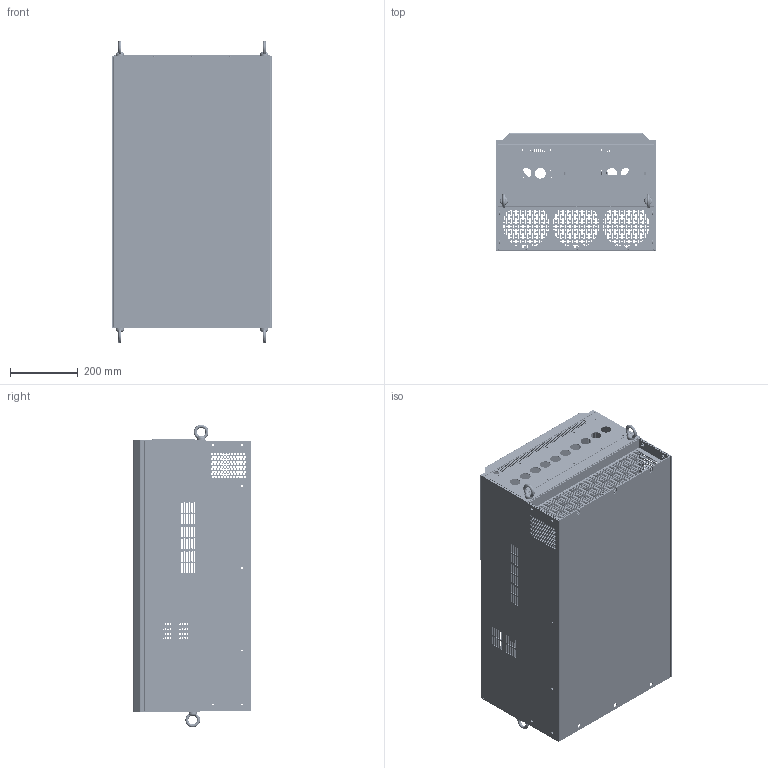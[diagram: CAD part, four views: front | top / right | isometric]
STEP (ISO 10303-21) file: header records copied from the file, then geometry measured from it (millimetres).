
FILE_DESCRIPTION((''),'2;1');
FILE_NAME('2999910088_ASM','2024-06-14T08:34:49',('dylvxj'),(''),'CREO PARAMETRIC BY PTC INC, 2020044','CREO PARAMETRIC BY PTC INC, 2020044','');
FILE_SCHEMA(('CONFIG_CONTROL_DESIGN','SHAPE_APPEARANCE_LAYERS_GROUPS'));
Products named in the file (63): 8ZTD_024_755; S-M6-2; 8ZTD_024_755_ASM; 5062V1607; S-M5-2; 5062V1607_ASM; 8ZTD_062_265; SOO_M3_15; 8ZTD_062_265_ASM; 8ZTD_043_747; M10; 8ZTD_043_747_ASM; 8ZTD_043_751; 8ZTD_043_751_ASM; 8ZTD_043_750; 8ZTD_043_750_ASM; 8ZTD_043_752; S_M4_2; 8ZTD_043_752_ASM; 8ZTD_043_754; 8ZTD_043_754_ASM; 8ZTD_043_753; 8ZTD_043_753_ASM; 8ZTD_043_811; 8ZTD_043_811_ASM; 5022V1628_ASM; 8ZTD_325_218; 8ZTD_325_218_ASM; 8ZTD_048_082; 8ZTD_048_082_ASM; 8ZTD_325_219; 8ZTD_325_219_ASM; 8ZTD_048_080; 8ZTD_048_083; S00-M3-10; 8ZTD_048_083_ASM; 8ZTD_355_048_R; 8ZTD_355_048_L; 8ZTD_355_048_D; 8ZTD_355_048_T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
Assembly tree (172 placements, depth 4):
  2999910088_ASM
    5022V1628_ASM
      8ZTD_024_755_ASM
        8ZTD_024_755
        S-M6-2  x6
      5062V1607_ASM
        5062V1607
        S-M5-2  x4
      8ZTD_062_265_ASM
        8ZTD_062_265
        SOO_M3_15  x2
      8ZTD_043_747_ASM
        8ZTD_043_747
        S-M5-2  x3
        M10
      8ZTD_043_751_ASM
        8ZTD_043_751
        S-M6-2  x3
      8ZTD_043_750_ASM
        8ZTD_043_750
        S-M5-2  x3
        S-M6-2  x3
      8ZTD_043_752_ASM
        8ZTD_043_752
        S_M4_2  x2
      8ZTD_043_754_ASM
        8ZTD_043_754
        S-M5-2  x2
      8ZTD_043_753_ASM
        8ZTD_043_753
        S-M5-2  x2
      8ZTD_043_811_ASM
        8ZTD_043_811
        S-M5-2  x3
        M10
    8ZTD_325_218_ASM
      8ZTD_325_218
      S-M6-2  x4
    8ZTD_048_082_ASM
      8ZTD_048_082
      S_M4_2  x20
    8ZTD_325_219_ASM
      8ZTD_325_219
      S-M6-2  x4
    8ZTD_048_080
    8ZTD_048_083_ASM
      8ZTD_048_083
      S00-M3-10  x8
    5355V1627_ASM
      8ZTD_355_048_ASM
        8ZTD_355_048_R
        8ZTD_355_048_L
        8ZTD_355_048_D
        8ZTD_355_048_T
        S_M4_2  x16
      GBT825  x4
      5040V1641_ASM  x2
        5040V1641
        S-M5-2
      8ZTD_355_048_DB  x4
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Bounding box: 470.3 x 344.86 x 889.99 mm (x, y, z)
Volume: 4763621.7 mm3; surface area: 5493055.8 mm2
Topology: 152 solids, 267 shells, 29327 faces, 84048 edges, 55722 vertices
Faces by surface type: plane 27198, cylinder 2087, torus 24, cone 16, bspline 2
Entity records: 666587 total; most frequent: CARTESIAN_POINT 99045, ORIENTED_EDGE 97972, DIRECTION 86498, EDGE_CURVE 49130, VECTOR 46202, LINE 46202, VERTEX_POINT 32453, PRESENTATION_STYLE_ASSIGNMENT 31955
